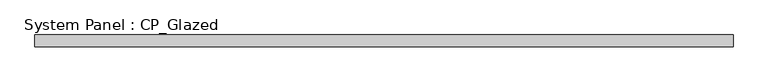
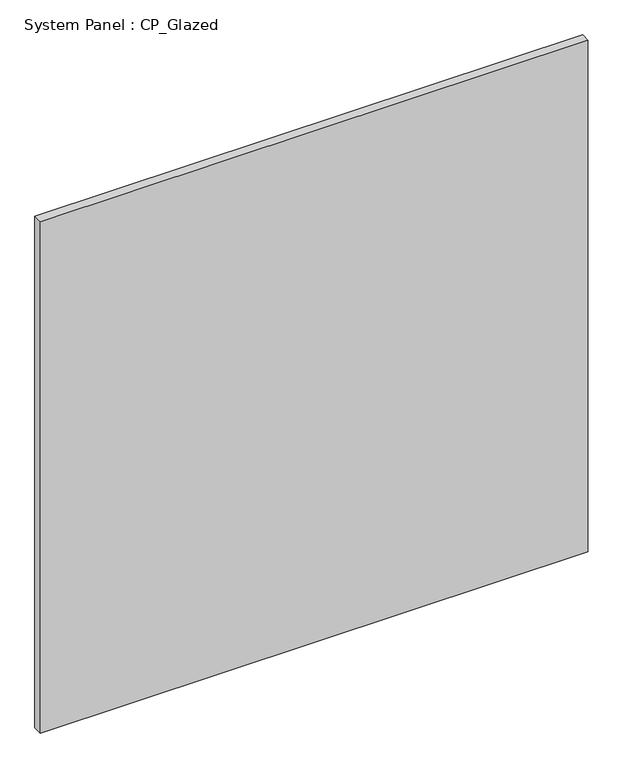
"""IFC4 building model written with IfcOpenShell, lengths in millimetres: plate geometry, System Panel : CP_Glazed."""

from ifc_helpers import new_model, si_unit, origin, origin_with_axes, place, context, project, spatial, polyline, outline, extrude, source, transform, mapped, element, save


def system_panel_cp_glazed_e615b06c(model_context):
    return source(origin(), model_context, "Body", "SweptSolid", [
        extrude(outline(polyline([(749.3, 19.05), (-749.3, 19.05), (-749.3, 44.45), (749.3, 44.45), (749.3, 19.05)])), origin_with_axes(), (0.0, 0.0, 1.0), 1479.55),
    ])


if __name__ == "__main__":
    model = new_model("IFC4")
    model_context = context("Model", 3, world=origin())
    ifc_project = project(units=[si_unit("LENGTHUNIT", "METRE", prefix="MILLI")], contexts=[model_context])
    site = spatial("IfcSite", under=ifc_project)
    building = spatial("IfcBuilding", under=site)
    placement = place(None, origin())
    system_panel_cp_glazed_shape = system_panel_cp_glazed_e615b06c(model_context)
    element("IfcPlate", 1, ObjectType="System Panel : CP_Glazed", at=placement, inside=building, context=model_context, shape_type="MappedRepresentation", body=[
        mapped(system_panel_cp_glazed_shape, transform((0.0, 0.0, 0.0), x_axis=(1.0, 0.0, 0.0), y_axis=(0.0, 1.0, 0.0), z_axis=(0.0, 0.0, 1.0))),
    ])
    save(model, "model.ifc")
